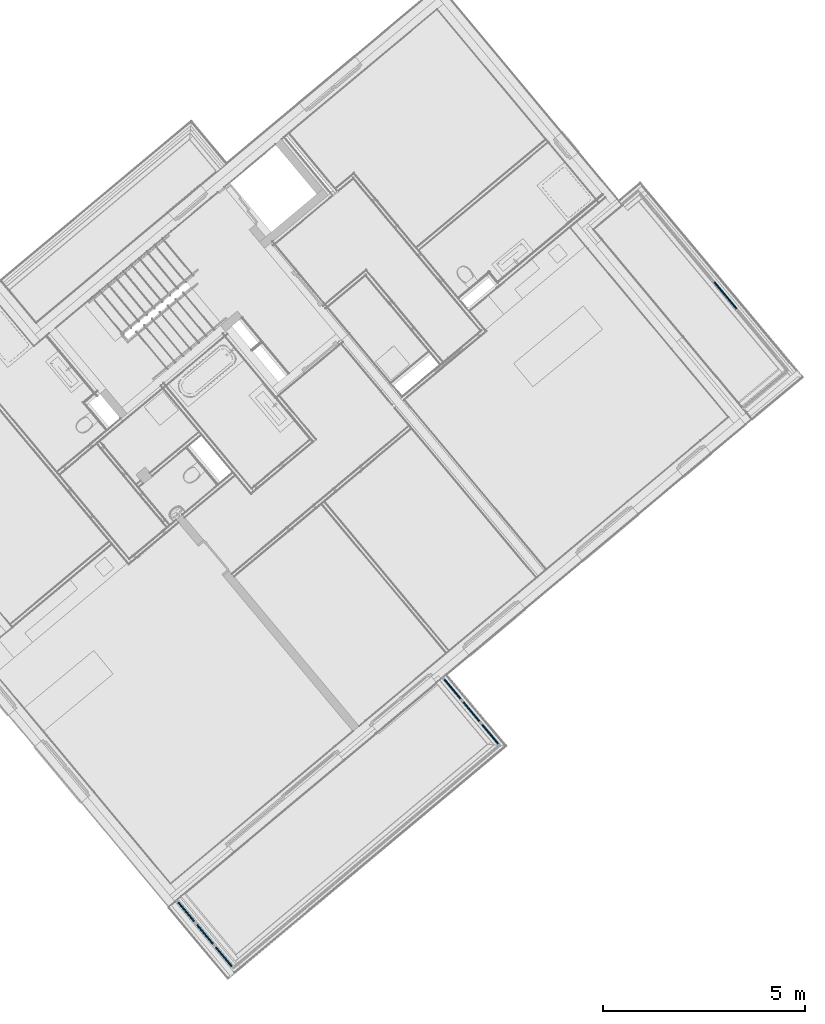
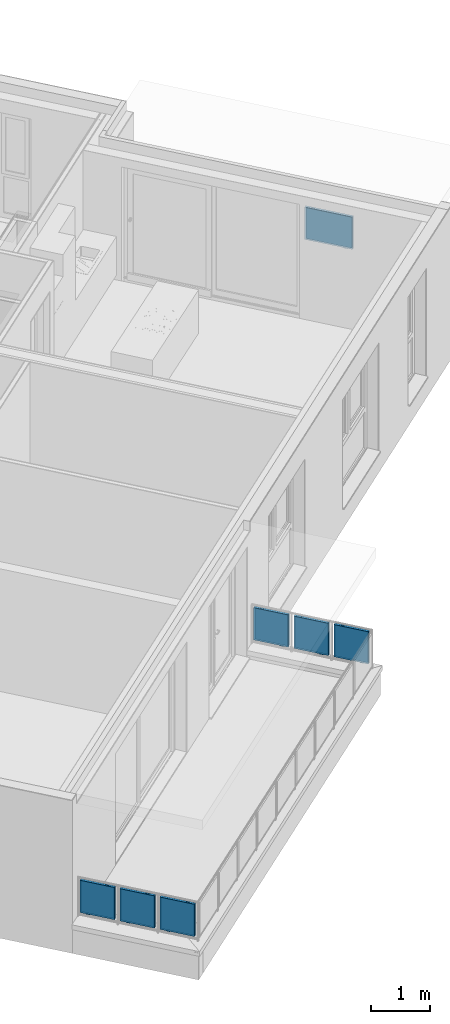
# One storey, part 37 of 50: 14 building element parts, 2 elements without a shape of their own.
"""IFC4 building model written with IfcOpenShell, lengths in metres."""

from ifc_helpers import new_model, entity, si_unit, converted_unit, derived_unit, direction, frame, origin_with_axes, place, context, subcontext, project, spatial, polygons, material, type_object, element, aggregate, save


model = new_model("IFC4")

# Units and contexts
model_context = context("Model", 3, precision=1e-05, world=origin_with_axes(), true_north=direction((0.0, 1.0)))
body_context = subcontext(model_context, "Body", "Model", "MODEL_VIEW")
ifc_project = project(units=[si_unit("LENGTHUNIT", "METRE"), si_unit("AREAUNIT", "SQUARE_METRE"), si_unit("VOLUMEUNIT", "CUBIC_METRE"), converted_unit("PLANEANGLEUNIT", "DEGREE", entity("IfcPlaneAngleMeasure", 0.0174532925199), si_unit("PLANEANGLEUNIT", "RADIAN"), dimensions=[0, 0, 0, 0, 0, 0, 0]), converted_unit("TIMEUNIT", "Year", entity("IfcTimeMeasure", 31556926.0), si_unit("TIMEUNIT", "SECOND"), dimensions=[0, 0, 1, 0, 0, 0, 0]), si_unit("MASSUNIT", "GRAM", prefix="KILO"), si_unit("THERMODYNAMICTEMPERATUREUNIT", "DEGREE_CELSIUS"), si_unit("LUMINOUSINTENSITYUNIT", "LUMEN"), si_unit("ENERGYUNIT", "JOULE", prefix="MEGA"), derived_unit("THERMALCONDUCTANCEUNIT", [(si_unit("POWERUNIT", "WATT"), 1), (si_unit("LENGTHUNIT", "METRE"), -1), (si_unit("THERMODYNAMICTEMPERATUREUNIT", "KELVIN"), -1)]), derived_unit("SPECIFICHEATCAPACITYUNIT", [(si_unit("ENERGYUNIT", "JOULE"), 1), (si_unit("MASSUNIT", "GRAM", prefix="KILO"), -1), (si_unit("THERMODYNAMICTEMPERATUREUNIT", "KELVIN"), -1)]), derived_unit("MASSDENSITYUNIT", [(si_unit("MASSUNIT", "GRAM", prefix="KILO"), 1), (si_unit("VOLUMEUNIT", "CUBIC_METRE"), -1)])], contexts=[model_context])

# Site, building, storey
site_placement = place(None, frame((-0.00153261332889, -0.00661245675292, 0.0), z_axis=(0.0, 0.0, 1.0), x_axis=(1.0, 0.0, 0.0)))
site = spatial("IfcSite", under=ifc_project, at=site_placement, Name="Site", CompositionType="ELEMENT")
building_placement = place(site_placement, origin_with_axes())
building = spatial("IfcBuilding", under=site, at=building_placement, Name="Building", CompositionType="ELEMENT")
storey_placement = place(building_placement, frame((0.0, 0.0, 2.74), z_axis=(0.0, 0.0, 1.0), x_axis=(1.0, 0.0, 0.0)))
storey = spatial("IfcBuildingStorey", under=building, at=storey_placement, Name="OG1", CompositionType="ELEMENT", Elevation=2.74)

# Railing, building element parts
railing_type = type_object("IfcRailingType", Name="Geländerart", PredefinedType="NOTDEFINED")
railing_1_placement = place(storey_placement, frame((-0.869246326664, 8.34153645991, 0.38), z_axis=(0.0, 0.0, 1.0), x_axis=(1.0, 0.0, 0.0)))
railing_1 = element("IfcRailing", 1, at=railing_1_placement, inside=storey, type_object=railing_type, Name="Geländer - 001", PredefinedType="NOTDEFINED")
ifc_material_1 = material(Name="Profilit")
building_element_part_1_placement = place(railing_1_placement, origin_with_axes())
building_element_part_1 = element("IfcBuildingElementPart", 2, at=building_element_part_1_placement, material=ifc_material_1, Name="Profilit", PredefinedType="NOTDEFINED", context=body_context, shape_type="Tessellation", body=[
    polygons([(0.467766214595, -0.466568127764, 0.135), (0.0876851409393, -0.0113977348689, 0.135), (0.0876851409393, -0.0113977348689, 0.775), (0.467766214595, -0.466568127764, 0.775), (0.0723335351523, -0.024216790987, 0.135), (0.452414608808, -0.479387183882, 0.135), (0.0723335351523, -0.024216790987, 0.775), (0.452414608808, -0.479387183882, 0.775)], [[[1, 2, 3, 4]], [[5, 2, 1, 6]], [[7, 3, 2, 5]], [[4, 3, 7, 8]], [[1, 4, 8, 6]], [[7, 5, 6, 8]]], closed=True),
])
ifc_material_2 = material(Name="Aluminium")
building_element_part_2_placement = place(railing_1_placement, origin_with_axes())
building_element_part_2 = element("IfcBuildingElementPart", 3, at=building_element_part_2_placement, material=ifc_material_2, Name="Aluminium", PredefinedType="NOTDEFINED", context=body_context, shape_type="Tessellation", body=[
    polygons([(0.136409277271, -0.0814492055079, 0.12), (0.181275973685, -0.135179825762, 0.12), (0.181275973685, -0.135179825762, 0.095), (0.136409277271, -0.0814492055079, 0.095), (0.132571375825, -0.0846539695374, 0.12), (0.177438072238, -0.138384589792, 0.12), (0.177438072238, -0.138384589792, 0.095), (0.132571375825, -0.0846539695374, 0.095)], [[[1, 2, 3, 4]], [[5, 6, 2, 1]], [[2, 6, 7, 3]], [[4, 3, 7, 8]], [[1, 4, 8, 5]], [[8, 7, 6, 5]]], closed=True),
    polygons([(0.407528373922, -0.406130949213, 0.79), (0.362661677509, -0.352400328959, 0.79), (0.362661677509, -0.352400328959, 0.795), (0.407528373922, -0.406130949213, 0.795), (0.403690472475, -0.409335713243, 0.79), (0.358823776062, -0.355605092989, 0.79), (0.358823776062, -0.355605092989, 0.795), (0.403690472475, -0.409335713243, 0.795)], [[[1, 2, 3, 4]], [[5, 6, 2, 1]], [[2, 6, 7, 3]], [[4, 3, 7, 8]], [[1, 4, 8, 5]], [[8, 7, 6, 5]]], closed=True),
    polygons([(0.0512055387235, -0.0223173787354, 0.12), (0.0895845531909, 0.00973026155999, 0.12), (0.488894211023, -0.468467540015, 0.12), (0.450515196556, -0.500515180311, 0.12), (0.0640245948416, -0.0376689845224, 0.14), (0.0755382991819, -0.0280546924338, 0.14), (0.0723335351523, -0.024216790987, 0.135), (0.0876851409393, -0.0113977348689, 0.135), (0.0908899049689, -0.0152356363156, 0.14), (0.102403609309, -0.005621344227, 0.14), (0.476075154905, -0.453115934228, 0.14), (0.476075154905, -0.453115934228, 0.77), (0.102403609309, -0.005621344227, 0.77), (0.102403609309, -0.005621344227, 0.14), (0.0895845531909, 0.00973026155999, 0.12), (0.0895845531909, 0.00973026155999, 0.79), (0.488894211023, -0.468467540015, 0.79), (0.450515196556, -0.500515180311, 0.79), (0.0512055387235, -0.0223173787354, 0.79), (0.0512055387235, -0.0223173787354, 0.12), (0.0640245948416, -0.0376689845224, 0.14), (0.0640245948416, -0.0376689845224, 0.77), (0.437696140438, -0.485163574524, 0.77), (0.437696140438, -0.485163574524, 0.14), (0.449209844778, -0.475549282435, 0.14), (0.449209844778, -0.475549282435, 0.77), (0.0755382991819, -0.0280546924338, 0.77), (0.0755382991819, -0.0280546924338, 0.14), (0.0723335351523, -0.024216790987, 0.135), (0.0723335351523, -0.024216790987, 0.775), (0.452414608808, -0.479387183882, 0.775), (0.452414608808, -0.479387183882, 0.135), (0.467766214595, -0.466568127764, 0.135), (0.467766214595, -0.466568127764, 0.775), (0.0876851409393, -0.0113977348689, 0.775), (0.0876851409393, -0.0113977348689, 0.135), (0.0908899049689, -0.0152356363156, 0.14), (0.0908899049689, -0.0152356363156, 0.77), (0.464561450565, -0.462730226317, 0.77), (0.464561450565, -0.462730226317, 0.14)], [[[1, 2, 3, 4]], [[1, 5, 6, 7, 8, 9, 10, 2]], [[2, 10, 11, 12, 13, 14, 15, 16, 17, 3]], [[4, 3, 17, 18]], [[5, 1, 4, 18, 19, 20, 21, 22, 23, 24]], [[6, 5, 24, 25]], [[7, 6, 25, 26, 27, 28, 29, 30, 31, 32]], [[8, 7, 32, 33]], [[9, 8, 33, 34, 35, 36, 37, 38, 39, 40]], [[10, 9, 40, 11]], [[11, 40, 39, 12]], [[12, 39, 38, 13]], [[13, 38, 37, 14]], [[20, 15, 14, 37, 36, 29, 28, 21]], [[19, 16, 15, 20]], [[18, 17, 16, 19]], [[27, 22, 21, 28]], [[26, 23, 22, 27]], [[25, 24, 23, 26]], [[35, 30, 29, 36]], [[34, 31, 30, 35]], [[33, 32, 31, 34]]], closed=True),
])
building_element_part_3_placement = place(railing_1_placement, origin_with_axes())
building_element_part_3 = element("IfcBuildingElementPart", 4, at=building_element_part_3_placement, material=ifc_material_1, Name="Profilit", PredefinedType="NOTDEFINED", context=body_context, shape_type="Tessellation", body=[
    polygons([(0.931171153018, -1.02152395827, 0.135), (0.551090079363, -0.566353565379, 0.135), (0.551090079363, -0.566353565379, 0.775), (0.931171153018, -1.02152395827, 0.775), (0.535738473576, -0.579172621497, 0.135), (0.915819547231, -1.03434301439, 0.135), (0.535738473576, -0.579172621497, 0.775), (0.915819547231, -1.03434301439, 0.775)], [[[1, 2, 3, 4]], [[5, 2, 1, 6]], [[7, 3, 2, 5]], [[4, 3, 7, 8]], [[1, 4, 8, 6]], [[7, 5, 6, 8]]], closed=True),
])
building_element_part_4_placement = place(railing_1_placement, origin_with_axes())
building_element_part_4 = element("IfcBuildingElementPart", 5, at=building_element_part_4_placement, material=ifc_material_2, Name="Aluminium", PredefinedType="NOTDEFINED", context=body_context, shape_type="Tessellation", body=[
    polygons([(0.599814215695, -0.636405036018, 0.12), (0.644680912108, -0.690135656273, 0.12), (0.644680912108, -0.690135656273, 0.095), (0.599814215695, -0.636405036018, 0.095), (0.595976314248, -0.639609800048, 0.12), (0.640843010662, -0.693340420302, 0.12), (0.640843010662, -0.693340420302, 0.095), (0.595976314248, -0.639609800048, 0.095)], [[[1, 2, 3, 4]], [[5, 6, 2, 1]], [[2, 6, 7, 3]], [[4, 3, 7, 8]], [[1, 4, 8, 5]], [[8, 7, 6, 5]]], closed=True),
    polygons([(0.870933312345, -0.961086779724, 0.79), (0.826066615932, -0.907356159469, 0.79), (0.826066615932, -0.907356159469, 0.795), (0.870933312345, -0.961086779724, 0.795), (0.867095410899, -0.964291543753, 0.79), (0.822228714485, -0.910560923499, 0.79), (0.822228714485, -0.910560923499, 0.795), (0.867095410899, -0.964291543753, 0.795)], [[[1, 2, 3, 4]], [[5, 6, 2, 1]], [[2, 6, 7, 3]], [[4, 3, 7, 8]], [[1, 4, 8, 5]], [[8, 7, 6, 5]]], closed=True),
    polygons([(0.514610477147, -0.577273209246, 0.12), (0.552989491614, -0.54522556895, 0.12), (0.952299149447, -1.02342337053, 0.12), (0.913920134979, -1.05547101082, 0.12), (0.527429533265, -0.592624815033, 0.14), (0.538943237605, -0.583010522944, 0.14), (0.535738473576, -0.579172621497, 0.135), (0.551090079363, -0.566353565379, 0.135), (0.554294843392, -0.570191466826, 0.14), (0.565808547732, -0.560577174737, 0.14), (0.939480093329, -1.00807176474, 0.14), (0.939480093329, -1.00807176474, 0.77), (0.565808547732, -0.560577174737, 0.77), (0.565808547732, -0.560577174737, 0.14), (0.552989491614, -0.54522556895, 0.12), (0.552989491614, -0.54522556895, 0.79), (0.952299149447, -1.02342337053, 0.79), (0.913920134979, -1.05547101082, 0.79), (0.514610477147, -0.577273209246, 0.79), (0.514610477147, -0.577273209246, 0.12), (0.527429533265, -0.592624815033, 0.14), (0.527429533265, -0.592624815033, 0.77), (0.901101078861, -1.04011940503, 0.77), (0.901101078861, -1.04011940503, 0.14), (0.912614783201, -1.03050511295, 0.14), (0.912614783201, -1.03050511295, 0.77), (0.538943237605, -0.583010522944, 0.77), (0.538943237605, -0.583010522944, 0.14), (0.535738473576, -0.579172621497, 0.135), (0.535738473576, -0.579172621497, 0.775), (0.915819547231, -1.03434301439, 0.775), (0.915819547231, -1.03434301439, 0.135), (0.931171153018, -1.02152395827, 0.135), (0.931171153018, -1.02152395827, 0.775), (0.551090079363, -0.566353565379, 0.775), (0.551090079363, -0.566353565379, 0.135), (0.554294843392, -0.570191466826, 0.14), (0.554294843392, -0.570191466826, 0.77), (0.927966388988, -1.01768605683, 0.77), (0.927966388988, -1.01768605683, 0.14)], [[[1, 2, 3, 4]], [[1, 5, 6, 7, 8, 9, 10, 2]], [[2, 10, 11, 12, 13, 14, 15, 16, 17, 3]], [[4, 3, 17, 18]], [[5, 1, 4, 18, 19, 20, 21, 22, 23, 24]], [[6, 5, 24, 25]], [[7, 6, 25, 26, 27, 28, 29, 30, 31, 32]], [[8, 7, 32, 33]], [[9, 8, 33, 34, 35, 36, 37, 38, 39, 40]], [[10, 9, 40, 11]], [[11, 40, 39, 12]], [[12, 39, 38, 13]], [[13, 38, 37, 14]], [[20, 15, 14, 37, 36, 29, 28, 21]], [[19, 16, 15, 20]], [[18, 17, 16, 19]], [[27, 22, 21, 28]], [[26, 23, 22, 27]], [[25, 24, 23, 26]], [[35, 30, 29, 36]], [[34, 31, 30, 35]], [[33, 32, 31, 34]]], closed=True),
])
building_element_part_5_placement = place(railing_1_placement, origin_with_axes())
building_element_part_5 = element("IfcBuildingElementPart", 6, at=building_element_part_5_placement, material=ifc_material_1, Name="Profilit", PredefinedType="NOTDEFINED", context=body_context, shape_type="Tessellation", body=[
    polygons([(1.39457609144, -1.57647978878, 0.135), (1.01449501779, -1.12130939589, 0.135), (1.01449501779, -1.12130939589, 0.775), (1.39457609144, -1.57647978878, 0.775), (0.999143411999, -1.13412845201, 0.135), (1.37922448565, -1.5892988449, 0.135), (0.999143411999, -1.13412845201, 0.775), (1.37922448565, -1.5892988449, 0.775)], [[[1, 2, 3, 4]], [[5, 2, 1, 6]], [[7, 3, 2, 5]], [[4, 3, 7, 8]], [[1, 4, 8, 6]], [[7, 5, 6, 8]]], closed=True),
])
building_element_part_6_placement = place(railing_1_placement, origin_with_axes())
building_element_part_6 = element("IfcBuildingElementPart", 7, at=building_element_part_6_placement, material=ifc_material_2, Name="Aluminium", PredefinedType="NOTDEFINED", context=body_context, shape_type="Tessellation", body=[
    polygons([(1.06321915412, -1.19136086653, 0.12), (1.10808585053, -1.24509148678, 0.12), (1.10808585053, -1.24509148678, 0.095), (1.06321915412, -1.19136086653, 0.095), (1.05938125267, -1.19456563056, 0.12), (1.10424794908, -1.24829625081, 0.12), (1.10424794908, -1.24829625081, 0.095), (1.05938125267, -1.19456563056, 0.095)], [[[1, 2, 3, 4]], [[5, 6, 2, 1]], [[2, 6, 7, 3]], [[4, 3, 7, 8]], [[1, 4, 8, 5]], [[8, 7, 6, 5]]], closed=True),
    polygons([(1.33433825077, -1.51604261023, 0.79), (1.28947155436, -1.46231198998, 0.79), (1.28947155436, -1.46231198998, 0.795), (1.33433825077, -1.51604261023, 0.795), (1.33050034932, -1.51924737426, 0.79), (1.28563365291, -1.46551675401, 0.79), (1.28563365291, -1.46551675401, 0.795), (1.33050034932, -1.51924737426, 0.795)], [[[1, 2, 3, 4]], [[5, 6, 2, 1]], [[2, 6, 7, 3]], [[4, 3, 7, 8]], [[1, 4, 8, 5]], [[8, 7, 6, 5]]], closed=True),
    polygons([(0.97801541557, -1.13222903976, 0.12), (1.01639443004, -1.10018139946, 0.12), (1.41570408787, -1.57837920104, 0.12), (1.3773250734, -1.61042684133, 0.12), (0.990834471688, -1.14758064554, 0.14), (1.00234817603, -1.13796635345, 0.14), (0.999143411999, -1.13412845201, 0.135), (1.01449501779, -1.12130939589, 0.135), (1.01769978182, -1.12514729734, 0.14), (1.02921348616, -1.11553300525, 0.14), (1.40288503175, -1.56302759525, 0.14), (1.40288503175, -1.56302759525, 0.77), (1.02921348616, -1.11553300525, 0.77), (1.02921348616, -1.11553300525, 0.14), (1.01639443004, -1.10018139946, 0.12), (1.01639443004, -1.10018139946, 0.79), (1.41570408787, -1.57837920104, 0.79), (1.3773250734, -1.61042684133, 0.79), (0.97801541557, -1.13222903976, 0.79), (0.97801541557, -1.13222903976, 0.12), (0.990834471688, -1.14758064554, 0.14), (0.990834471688, -1.14758064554, 0.77), (1.36450601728, -1.59507523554, 0.77), (1.36450601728, -1.59507523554, 0.14), (1.37601972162, -1.58546094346, 0.14), (1.37601972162, -1.58546094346, 0.77), (1.00234817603, -1.13796635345, 0.77), (1.00234817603, -1.13796635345, 0.14), (0.999143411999, -1.13412845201, 0.135), (0.999143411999, -1.13412845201, 0.775), (1.37922448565, -1.5892988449, 0.775), (1.37922448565, -1.5892988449, 0.135), (1.39457609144, -1.57647978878, 0.135), (1.39457609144, -1.57647978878, 0.775), (1.01449501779, -1.12130939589, 0.775), (1.01449501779, -1.12130939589, 0.135), (1.01769978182, -1.12514729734, 0.14), (1.01769978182, -1.12514729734, 0.77), (1.39137132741, -1.57264188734, 0.77), (1.39137132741, -1.57264188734, 0.14)], [[[1, 2, 3, 4]], [[1, 5, 6, 7, 8, 9, 10, 2]], [[2, 10, 11, 12, 13, 14, 15, 16, 17, 3]], [[4, 3, 17, 18]], [[5, 1, 4, 18, 19, 20, 21, 22, 23, 24]], [[6, 5, 24, 25]], [[7, 6, 25, 26, 27, 28, 29, 30, 31, 32]], [[8, 7, 32, 33]], [[9, 8, 33, 34, 35, 36, 37, 38, 39, 40]], [[10, 9, 40, 11]], [[11, 40, 39, 12]], [[12, 39, 38, 13]], [[13, 38, 37, 14]], [[20, 15, 14, 37, 36, 29, 28, 21]], [[19, 16, 15, 20]], [[18, 17, 16, 19]], [[27, 22, 21, 28]], [[26, 23, 22, 27]], [[25, 24, 23, 26]], [[35, 30, 29, 36]], [[34, 31, 30, 35]], [[33, 32, 31, 34]]], closed=True),
])
building_element_part_7_placement = place(railing_1_placement, origin_with_axes())
building_element_part_7 = element("IfcBuildingElementPart", 8, at=building_element_part_7_placement, material=ifc_material_1, Name="Profilit", PredefinedType="NOTDEFINED", context=body_context, shape_type="Tessellation", body=[
    polygons([(7.58401839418, 4.37156324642, 0.135), (7.96490842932, 3.91504542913, 0.135), (7.96490842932, 3.91504542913, 0.775), (7.58401839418, 4.37156324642, 0.775), (7.98026526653, 3.92785821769, 0.135), (7.5993752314, 4.38437603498, 0.135), (7.98026526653, 3.92785821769, 0.775), (7.5993752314, 4.38437603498, 0.775)], [[[1, 2, 3, 4]], [[5, 2, 1, 6]], [[7, 3, 2, 5]], [[4, 3, 7, 8]], [[1, 4, 8, 6]], [[7, 5, 6, 8]]], closed=True),
])
building_element_part_8_placement = place(railing_1_placement, origin_with_axes())
building_element_part_8 = element("IfcBuildingElementPart", 9, at=building_element_part_8_placement, material=ifc_material_2, Name="Aluminium", PredefinedType="NOTDEFINED", context=body_context, shape_type="Tessellation", body=[
    polygons([(7.91621289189, 3.98511678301, 0.12), (7.87136813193, 4.03886571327, 0.12), (7.87136813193, 4.03886571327, 0.095), (7.91621289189, 3.98511678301, 0.095), (7.92005210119, 3.98831998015, 0.12), (7.87520734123, 4.04206891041, 0.12), (7.87520734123, 4.04206891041, 0.095), (7.92005210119, 3.98831998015, 0.095)], [[[1, 2, 3, 4]], [[5, 6, 2, 1]], [[2, 6, 7, 3]], [[4, 3, 7, 8]], [[1, 4, 8, 5]], [[8, 7, 6, 5]]], closed=True),
    polygons([(7.64423155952, 4.31110148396, 0.79), (7.68907631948, 4.2573525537, 0.79), (7.68907631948, 4.2573525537, 0.795), (7.64423155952, 4.31110148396, 0.795), (7.64807076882, 4.3143046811, 0.79), (7.69291552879, 4.26055575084, 0.79), (7.69291552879, 4.26055575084, 0.795), (7.64807076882, 4.3143046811, 0.795)], [[[1, 2, 3, 4]], [[5, 6, 2, 1]], [[2, 6, 7, 3]], [[4, 3, 7, 8]], [[1, 4, 8, 5]], [[8, 7, 6, 5]]], closed=True),
    polygons([(8.00139248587, 3.9259501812, 0.12), (7.96300039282, 3.8939182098, 0.12), (7.56289117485, 4.37347128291, 0.12), (7.60128326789, 4.40550325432, 0.12), (7.98857969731, 3.94130701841, 0.14), (7.97706206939, 3.93169742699, 0.14), (7.98026526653, 3.92785821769, 0.135), (7.96490842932, 3.91504542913, 0.135), (7.96170523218, 3.91888463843, 0.14), (7.95018760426, 3.90927504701, 0.14), (7.57570396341, 4.3581144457, 0.14), (7.57570396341, 4.3581144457, 0.77), (7.95018760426, 3.90927504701, 0.77), (7.95018760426, 3.90927504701, 0.14), (7.96300039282, 3.8939182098, 0.12), (7.96300039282, 3.8939182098, 0.79), (7.56289117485, 4.37347128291, 0.79), (7.60128326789, 4.40550325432, 0.79), (8.00139248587, 3.9259501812, 0.79), (8.00139248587, 3.9259501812, 0.12), (7.98857969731, 3.94130701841, 0.14), (7.98857969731, 3.94130701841, 0.77), (7.61409605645, 4.3901464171, 0.77), (7.61409605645, 4.3901464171, 0.14), (7.60257842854, 4.38053682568, 0.14), (7.60257842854, 4.38053682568, 0.77), (7.97706206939, 3.93169742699, 0.77), (7.97706206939, 3.93169742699, 0.14), (7.98026526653, 3.92785821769, 0.135), (7.98026526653, 3.92785821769, 0.775), (7.5993752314, 4.38437603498, 0.775), (7.5993752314, 4.38437603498, 0.135), (7.58401839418, 4.37156324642, 0.135), (7.58401839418, 4.37156324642, 0.775), (7.96490842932, 3.91504542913, 0.775), (7.96490842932, 3.91504542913, 0.135), (7.96170523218, 3.91888463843, 0.14), (7.96170523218, 3.91888463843, 0.77), (7.58722159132, 4.36772403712, 0.77), (7.58722159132, 4.36772403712, 0.14)], [[[1, 2, 3, 4]], [[1, 5, 6, 7, 8, 9, 10, 2]], [[2, 10, 11, 12, 13, 14, 15, 16, 17, 3]], [[4, 3, 17, 18]], [[5, 1, 4, 18, 19, 20, 21, 22, 23, 24]], [[6, 5, 24, 25]], [[7, 6, 25, 26, 27, 28, 29, 30, 31, 32]], [[8, 7, 32, 33]], [[9, 8, 33, 34, 35, 36, 37, 38, 39, 40]], [[10, 9, 40, 11]], [[11, 40, 39, 12]], [[12, 39, 38, 13]], [[13, 38, 37, 14]], [[20, 15, 14, 37, 36, 29, 28, 21]], [[19, 16, 15, 20]], [[18, 17, 16, 19]], [[27, 22, 21, 28]], [[26, 23, 22, 27]], [[25, 24, 23, 26]], [[35, 30, 29, 36]], [[34, 31, 30, 35]], [[33, 32, 31, 34]]], closed=True),
])
building_element_part_9_placement = place(railing_1_placement, origin_with_axes())
building_element_part_9 = element("IfcBuildingElementPart", 10, at=building_element_part_9_placement, material=ifc_material_1, Name="Profilit", PredefinedType="NOTDEFINED", context=body_context, shape_type="Tessellation", body=[
    polygons([(7.1198452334, 4.92790050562, 0.135), (7.50073526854, 4.47138268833, 0.135), (7.50073526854, 4.47138268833, 0.775), (7.1198452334, 4.92790050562, 0.775), (7.51609210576, 4.48419547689, 0.135), (7.13520207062, 4.94071329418, 0.135), (7.51609210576, 4.48419547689, 0.775), (7.13520207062, 4.94071329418, 0.775)], [[[1, 2, 3, 4]], [[5, 2, 1, 6]], [[7, 3, 2, 5]], [[4, 3, 7, 8]], [[1, 4, 8, 6]], [[7, 5, 6, 8]]], closed=True),
])
building_element_part_10_placement = place(railing_1_placement, origin_with_axes())
building_element_part_10 = element("IfcBuildingElementPart", 11, at=building_element_part_10_placement, material=ifc_material_2, Name="Aluminium", PredefinedType="NOTDEFINED", context=body_context, shape_type="Tessellation", body=[
    polygons([(7.45203973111, 4.54145404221, 0.12), (7.40719497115, 4.59520297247, 0.12), (7.40719497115, 4.59520297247, 0.095), (7.45203973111, 4.54145404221, 0.095), (7.45587894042, 4.54465723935, 0.12), (7.41103418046, 4.59840616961, 0.12), (7.41103418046, 4.59840616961, 0.095), (7.45587894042, 4.54465723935, 0.095)], [[[1, 2, 3, 4]], [[5, 6, 2, 1]], [[2, 6, 7, 3]], [[4, 3, 7, 8]], [[1, 4, 8, 5]], [[8, 7, 6, 5]]], closed=True),
    polygons([(7.18005839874, 4.86743874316, 0.79), (7.2249031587, 4.8136898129, 0.79), (7.2249031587, 4.8136898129, 0.795), (7.18005839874, 4.86743874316, 0.795), (7.18389760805, 4.8706419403, 0.79), (7.22874236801, 4.81689301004, 0.79), (7.22874236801, 4.81689301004, 0.795), (7.18389760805, 4.8706419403, 0.795)], [[[1, 2, 3, 4]], [[5, 6, 2, 1]], [[2, 6, 7, 3]], [[4, 3, 7, 8]], [[1, 4, 8, 5]], [[8, 7, 6, 5]]], closed=True),
    polygons([(7.53721932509, 4.4822874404, 0.12), (7.49882723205, 4.450255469, 0.12), (7.09871801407, 4.92980854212, 0.12), (7.13711010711, 4.96184051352, 0.12), (7.52440653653, 4.49764427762, 0.14), (7.51288890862, 4.4880346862, 0.14), (7.51609210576, 4.48419547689, 0.135), (7.50073526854, 4.47138268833, 0.135), (7.4975320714, 4.47522189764, 0.14), (7.48601444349, 4.46561230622, 0.14), (7.11153080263, 4.9144517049, 0.14), (7.11153080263, 4.9144517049, 0.77), (7.48601444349, 4.46561230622, 0.77), (7.48601444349, 4.46561230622, 0.14), (7.49882723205, 4.450255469, 0.12), (7.49882723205, 4.450255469, 0.79), (7.09871801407, 4.92980854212, 0.79), (7.13711010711, 4.96184051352, 0.79), (7.53721932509, 4.4822874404, 0.79), (7.53721932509, 4.4822874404, 0.12), (7.52440653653, 4.49764427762, 0.14), (7.52440653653, 4.49764427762, 0.77), (7.14992289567, 4.9464836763, 0.77), (7.14992289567, 4.9464836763, 0.14), (7.13840526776, 4.93687408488, 0.14), (7.13840526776, 4.93687408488, 0.77), (7.51288890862, 4.4880346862, 0.77), (7.51288890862, 4.4880346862, 0.14), (7.51609210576, 4.48419547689, 0.135), (7.51609210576, 4.48419547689, 0.775), (7.13520207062, 4.94071329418, 0.775), (7.13520207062, 4.94071329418, 0.135), (7.1198452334, 4.92790050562, 0.135), (7.1198452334, 4.92790050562, 0.775), (7.50073526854, 4.47138268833, 0.775), (7.50073526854, 4.47138268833, 0.135), (7.4975320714, 4.47522189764, 0.14), (7.4975320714, 4.47522189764, 0.77), (7.12304843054, 4.92406129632, 0.77), (7.12304843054, 4.92406129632, 0.14)], [[[1, 2, 3, 4]], [[1, 5, 6, 7, 8, 9, 10, 2]], [[2, 10, 11, 12, 13, 14, 15, 16, 17, 3]], [[4, 3, 17, 18]], [[5, 1, 4, 18, 19, 20, 21, 22, 23, 24]], [[6, 5, 24, 25]], [[7, 6, 25, 26, 27, 28, 29, 30, 31, 32]], [[8, 7, 32, 33]], [[9, 8, 33, 34, 35, 36, 37, 38, 39, 40]], [[10, 9, 40, 11]], [[11, 40, 39, 12]], [[12, 39, 38, 13]], [[13, 38, 37, 14]], [[20, 15, 14, 37, 36, 29, 28, 21]], [[19, 16, 15, 20]], [[18, 17, 16, 19]], [[27, 22, 21, 28]], [[26, 23, 22, 27]], [[25, 24, 23, 26]], [[35, 30, 29, 36]], [[34, 31, 30, 35]], [[33, 32, 31, 34]]], closed=True),
])
building_element_part_11_placement = place(railing_1_placement, origin_with_axes())
building_element_part_11 = element("IfcBuildingElementPart", 12, at=building_element_part_11_placement, material=ifc_material_1, Name="Profilit", PredefinedType="NOTDEFINED", context=body_context, shape_type="Tessellation", body=[
    polygons([(6.65567207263, 5.48423776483, 0.135), (7.03656210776, 5.02771994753, 0.135), (7.03656210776, 5.02771994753, 0.775), (6.65567207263, 5.48423776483, 0.775), (7.05191894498, 5.04053273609, 0.135), (6.67102890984, 5.49705055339, 0.135), (7.05191894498, 5.04053273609, 0.775), (6.67102890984, 5.49705055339, 0.775)], [[[1, 2, 3, 4]], [[5, 2, 1, 6]], [[7, 3, 2, 5]], [[4, 3, 7, 8]], [[1, 4, 8, 6]], [[7, 5, 6, 8]]], closed=True),
])
building_element_part_12_placement = place(railing_1_placement, origin_with_axes())
building_element_part_12 = element("IfcBuildingElementPart", 13, at=building_element_part_12_placement, material=ifc_material_2, Name="Aluminium", PredefinedType="NOTDEFINED", context=body_context, shape_type="Tessellation", body=[
    polygons([(6.98786657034, 5.09779130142, 0.12), (6.94302181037, 5.15154023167, 0.12), (6.94302181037, 5.15154023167, 0.095), (6.98786657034, 5.09779130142, 0.095), (6.99170577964, 5.10099449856, 0.12), (6.94686101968, 5.15474342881, 0.12), (6.94686101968, 5.15474342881, 0.095), (6.99170577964, 5.10099449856, 0.095)], [[[1, 2, 3, 4]], [[5, 6, 2, 1]], [[2, 6, 7, 3]], [[4, 3, 7, 8]], [[1, 4, 8, 5]], [[8, 7, 6, 5]]], closed=True),
    polygons([(6.71588523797, 5.42377600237, 0.79), (6.76072999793, 5.37002707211, 0.79), (6.76072999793, 5.37002707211, 0.795), (6.71588523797, 5.42377600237, 0.795), (6.71972444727, 5.42697919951, 0.79), (6.76456920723, 5.37323026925, 0.79), (6.76456920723, 5.37323026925, 0.795), (6.71972444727, 5.42697919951, 0.795)], [[[1, 2, 3, 4]], [[5, 6, 2, 1]], [[2, 6, 7, 3]], [[4, 3, 7, 8]], [[1, 4, 8, 5]], [[8, 7, 6, 5]]], closed=True),
    polygons([(7.07304616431, 5.0386246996, 0.12), (7.03465407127, 5.0065927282, 0.12), (6.63454485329, 5.48614580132, 0.12), (6.67293694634, 5.51817777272, 0.12), (7.06023337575, 5.05398153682, 0.14), (7.04871574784, 5.0443719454, 0.14), (7.05191894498, 5.04053273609, 0.135), (7.03656210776, 5.02771994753, 0.135), (7.03335891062, 5.03155915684, 0.14), (7.02184128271, 5.02194956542, 0.14), (6.64735764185, 5.4707889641, 0.14), (6.64735764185, 5.4707889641, 0.77), (7.02184128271, 5.02194956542, 0.77), (7.02184128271, 5.02194956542, 0.14), (7.03465407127, 5.0065927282, 0.12), (7.03465407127, 5.0065927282, 0.79), (6.63454485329, 5.48614580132, 0.79), (6.67293694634, 5.51817777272, 0.79), (7.07304616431, 5.0386246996, 0.79), (7.07304616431, 5.0386246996, 0.12), (7.06023337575, 5.05398153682, 0.14), (7.06023337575, 5.05398153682, 0.77), (6.6857497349, 5.5028209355, 0.77), (6.6857497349, 5.5028209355, 0.14), (6.67423210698, 5.49321134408, 0.14), (6.67423210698, 5.49321134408, 0.77), (7.04871574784, 5.0443719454, 0.77), (7.04871574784, 5.0443719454, 0.14), (7.05191894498, 5.04053273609, 0.135), (7.05191894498, 5.04053273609, 0.775), (6.67102890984, 5.49705055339, 0.775), (6.67102890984, 5.49705055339, 0.135), (6.65567207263, 5.48423776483, 0.135), (6.65567207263, 5.48423776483, 0.775), (7.03656210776, 5.02771994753, 0.775), (7.03656210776, 5.02771994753, 0.135), (7.03335891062, 5.03155915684, 0.14), (7.03335891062, 5.03155915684, 0.77), (6.65887526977, 5.48039855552, 0.77), (6.65887526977, 5.48039855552, 0.14)], [[[1, 2, 3, 4]], [[1, 5, 6, 7, 8, 9, 10, 2]], [[2, 10, 11, 12, 13, 14, 15, 16, 17, 3]], [[4, 3, 17, 18]], [[5, 1, 4, 18, 19, 20, 21, 22, 23, 24]], [[6, 5, 24, 25]], [[7, 6, 25, 26, 27, 28, 29, 30, 31, 32]], [[8, 7, 32, 33]], [[9, 8, 33, 34, 35, 36, 37, 38, 39, 40]], [[10, 9, 40, 11]], [[11, 40, 39, 12]], [[12, 39, 38, 13]], [[13, 38, 37, 14]], [[20, 15, 14, 37, 36, 29, 28, 21]], [[19, 16, 15, 20]], [[18, 17, 16, 19]], [[27, 22, 21, 28]], [[26, 23, 22, 27]], [[25, 24, 23, 26]], [[35, 30, 29, 36]], [[34, 31, 30, 35]], [[33, 32, 31, 34]]], closed=True),
])
aggregate(railing_1, [building_element_part_1, building_element_part_2, building_element_part_3, building_element_part_4, building_element_part_5, building_element_part_6, building_element_part_7, building_element_part_8, building_element_part_9, building_element_part_10, building_element_part_11, building_element_part_12])

railing_2_placement = place(storey_placement, frame((13.1317464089, 20.5971564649, 0.38), z_axis=(0.0, 0.0, 1.0), x_axis=(1.0, 0.0, 0.0)))
railing_2 = element("IfcRailing", 14, at=railing_2_placement, inside=storey, type_object=railing_type, Name="Geländer - 001", PredefinedType="NOTDEFINED")
building_element_part_13_placement = place(railing_2_placement, origin_with_axes())
building_element_part_13 = element("IfcBuildingElementPart", 15, at=building_element_part_13_placement, material=ifc_material_1, Name="Profilit", PredefinedType="NOTDEFINED", context=body_context, shape_type="Tessellation", body=[
    polygons([(-0.674142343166, 3.05274068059, 0.135), (-0.139839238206, 2.41330913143, 0.135), (-0.139839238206, 2.41330913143, 0.775), (-0.674142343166, 3.05274068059, 0.775), (-0.124491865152, 2.4261332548, 0.135), (-0.658794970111, 3.06556480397, 0.135), (-0.124491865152, 2.4261332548, 0.775), (-0.658794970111, 3.06556480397, 0.775)], [[[1, 2, 3, 4]], [[5, 2, 1, 6]], [[7, 3, 2, 5]], [[4, 3, 7, 8]], [[1, 4, 8, 6]], [[7, 5, 6, 8]]], closed=True),
])
building_element_part_14_placement = place(railing_2_placement, origin_with_axes())
building_element_part_14 = element("IfcBuildingElementPart", 16, at=building_element_part_14_placement, material=ifc_material_2, Name="Aluminium", PredefinedType="NOTDEFINED", context=body_context, shape_type="Tessellation", body=[
    polygons([(-0.188586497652, 2.48334451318, 0.12), (-0.233470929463, 2.53706031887, 0.12), (-0.233470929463, 2.53706031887, 0.095), (-0.188586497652, 2.48334451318, 0.095), (-0.184749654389, 2.48655054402, 0.12), (-0.2296340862, 2.54026634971, 0.12), (-0.2296340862, 2.54026634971, 0.095), (-0.184749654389, 2.48655054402, 0.095)], [[[1, 2, 3, 4]], [[5, 6, 2, 1]], [[2, 6, 7, 3]], [[4, 3, 7, 8]], [[1, 4, 8, 5]], [[8, 7, 6, 5]]], closed=True),
    polygons([(-0.613884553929, 2.99232339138, 0.79), (-0.569000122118, 2.93860758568, 0.79), (-0.569000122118, 2.93860758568, 0.795), (-0.613884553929, 2.99232339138, 0.795), (-0.610047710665, 2.99552942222, 0.79), (-0.565163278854, 2.94181361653, 0.79), (-0.565163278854, 2.94181361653, 0.795), (-0.610047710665, 2.99552942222, 0.795)], [[[1, 2, 3, 4]], [[5, 6, 2, 1]], [[2, 6, 7, 3]], [[4, 3, 7, 8]], [[1, 4, 8, 5]], [[8, 7, 6, 5]]], closed=True),
    polygons([(-0.10336324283, 2.42424081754, 0.12), (-0.141731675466, 2.39218050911, 0.12), (-0.695270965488, 3.05463311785, 0.12), (-0.656902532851, 3.08669342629, 0.12), (-0.116187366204, 2.4395881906, 0.14), (-0.127697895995, 2.42997009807, 0.14), (-0.124491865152, 2.4261332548, 0.135), (-0.139839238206, 2.41330913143, 0.135), (-0.14304526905, 2.41714597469, 0.14), (-0.154555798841, 2.40752788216, 0.14), (-0.682446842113, 3.0392857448, 0.14), (-0.682446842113, 3.0392857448, 0.77), (-0.154555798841, 2.40752788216, 0.77), (-0.154555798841, 2.40752788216, 0.14), (-0.141731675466, 2.39218050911, 0.12), (-0.141731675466, 2.39218050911, 0.79), (-0.695270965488, 3.05463311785, 0.79), (-0.656902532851, 3.08669342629, 0.79), (-0.10336324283, 2.42424081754, 0.79), (-0.10336324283, 2.42424081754, 0.12), (-0.116187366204, 2.4395881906, 0.14), (-0.116187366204, 2.4395881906, 0.77), (-0.644078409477, 3.07134605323, 0.77), (-0.644078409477, 3.07134605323, 0.14), (-0.655588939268, 3.0617279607, 0.14), (-0.655588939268, 3.0617279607, 0.77), (-0.127697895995, 2.42997009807, 0.77), (-0.127697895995, 2.42997009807, 0.14), (-0.124491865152, 2.4261332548, 0.135), (-0.124491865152, 2.4261332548, 0.775), (-0.658794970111, 3.06556480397, 0.775), (-0.658794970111, 3.06556480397, 0.135), (-0.674142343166, 3.05274068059, 0.135), (-0.674142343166, 3.05274068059, 0.775), (-0.139839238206, 2.41330913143, 0.775), (-0.139839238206, 2.41330913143, 0.135), (-0.14304526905, 2.41714597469, 0.14), (-0.14304526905, 2.41714597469, 0.77), (-0.670936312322, 3.04890383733, 0.77), (-0.670936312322, 3.04890383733, 0.14)], [[[1, 2, 3, 4]], [[1, 5, 6, 7, 8, 9, 10, 2]], [[2, 10, 11, 12, 13, 14, 15, 16, 17, 3]], [[4, 3, 17, 18]], [[5, 1, 4, 18, 19, 20, 21, 22, 23, 24]], [[6, 5, 24, 25]], [[7, 6, 25, 26, 27, 28, 29, 30, 31, 32]], [[8, 7, 32, 33]], [[9, 8, 33, 34, 35, 36, 37, 38, 39, 40]], [[10, 9, 40, 11]], [[11, 40, 39, 12]], [[12, 39, 38, 13]], [[13, 38, 37, 14]], [[20, 15, 14, 37, 36, 29, 28, 21]], [[19, 16, 15, 20]], [[18, 17, 16, 19]], [[27, 22, 21, 28]], [[26, 23, 22, 27]], [[25, 24, 23, 26]], [[35, 30, 29, 36]], [[34, 31, 30, 35]], [[33, 32, 31, 34]]], closed=True),
])
aggregate(railing_2, [building_element_part_13, building_element_part_14])

save(model, "model.ifc")
